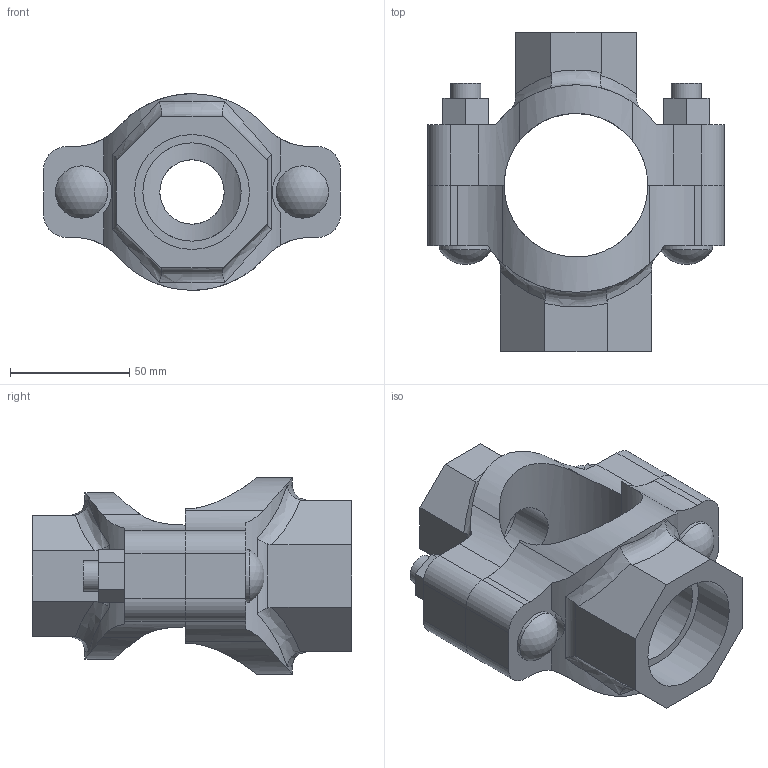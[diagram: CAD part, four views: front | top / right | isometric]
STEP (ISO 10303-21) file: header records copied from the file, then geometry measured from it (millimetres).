
FILE_DESCRIPTION(/* description */ ('VIC MECH-T BRANCH OUTLET CROSS STYLE 920N (THD)','CAx-IF Rec.Pracs.---Representation and Presentation of Product Manufacturing Information (PMI)---4.0---2014-10-13'),/* implementation_level */ '2;1');
FILE_NAME(/* name */ 'C:\Users\Vjadhav\AppData\Roaming\Autodesk\ApplicationPlugins\Back Up\Victaulic_IPS_Mechanical-Cross Outlet_Style 920N (FPT)\Victaulic_IPS_Mechanical-Cross Outlet_02.0x01.0x01.5 (50x25x40).stp',/* time_stamp */ '2020-08-06T18:56:09+05:00',/* author */ ('Vjadhav'),/* organization */ ('Victaulic'),/* preprocessor_version */ 'ST-DEVELOPER v17.2',/* originating_system */ 'Autodesk Inventor 2019',/* authorisation */ '');
FILE_SCHEMA (('AP242_MANAGED_MODEL_BASED_3D_ENGINEERING_MIM_LF { 1 0 10303 442 1 1 4 }'));
Length unit declared in the file: inch
Products named in the file (3): 920NT-02.0x01.0x01.5; 920NT-02.0x01.0; 920NT-02.0x01.5
Assembly tree (2 placements, depth 2):
  920NT-02.0x01.0x01.5
    920NT-02.0x01.0
    920NT-02.0x01.5
Bounding box: 124.71 x 134.11 x 82.55 mm (x, y, z)
Volume: 317851.2 mm3; surface area: 73837.6 mm2
Topology: 2 solids, 2 shells, 132 faces, 350 edges, 236 vertices
Faces by surface type: plane 68, cylinder 50, bspline 8, torus 4, sphere 2
Full cylindrical faces by diameter (mm): 12.7 x4, 21.982 x2, 26.987 x1, 33.401 x1, 41.275 x1, 48.26 x1
Entity records: 5100 total; most frequent: CARTESIAN_POINT 1575, ORIENTED_EDGE 700, DIRECTION 656, EDGE_CURVE 350, VERTEX_POINT 236, AXIS2_PLACEMENT_3D 235, LINE 186, VECTOR 186
